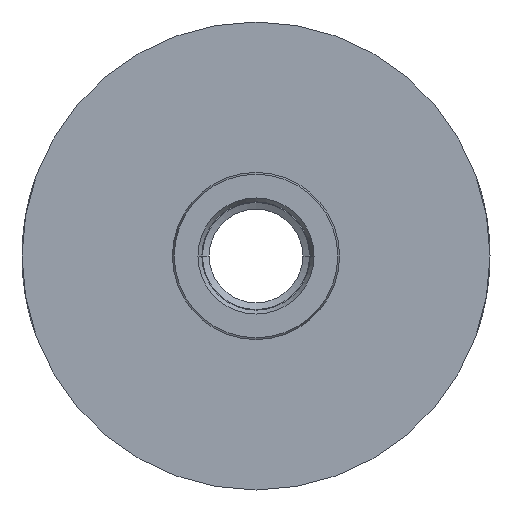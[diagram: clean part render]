
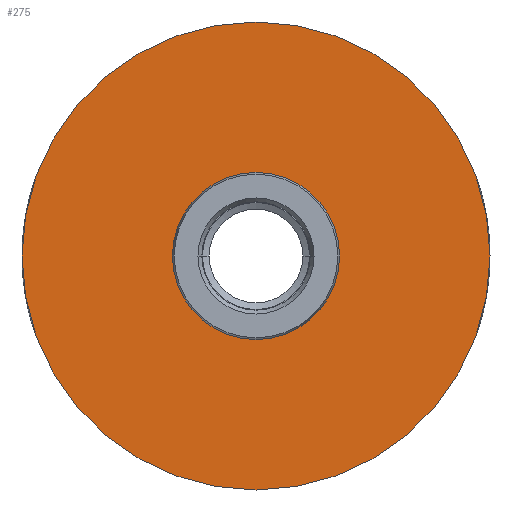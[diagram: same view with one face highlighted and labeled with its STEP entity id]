
A CAD part, front view. The second image highlights one B-rep face of the part: STEP entity #275.
In plain terms, the highlighted planar face has unit normal (0, -1, 0).
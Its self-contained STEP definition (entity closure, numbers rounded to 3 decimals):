
#40 = AXIS2_PLACEMENT_3D ( 'NONE', #1910, #1880, #1706 ) ;
#99 = CARTESIAN_POINT ( 'NONE',  ( 0., 0., 12.5 ) ) ;
#100 = CARTESIAN_POINT ( 'NONE',  ( 0., 0., 0. ) ) ;
#135 = CARTESIAN_POINT ( 'NONE',  ( 0., 0., 0. ) ) ;
#173 = DIRECTION ( 'NONE',  ( 0., 1., 0. ) ) ;
#175 = CIRCLE ( 'NONE', #2520, 12.5 ) ;
#179 = EDGE_CURVE ( 'NONE', #2342, #1859, #1728, .T. ) ;
#270 = CIRCLE ( 'NONE', #1039, 35. ) ;
#275 = ADVANCED_FACE ( 'NONE', ( #2031, #472 ), #924, .F. ) ;
#300 = DIRECTION ( 'NONE',  ( 0., 0., 1. ) ) ;
#311 = CARTESIAN_POINT ( 'NONE',  ( 0., 0., -35. ) ) ;
#363 = EDGE_LOOP ( 'NONE', ( #2414, #1480 ) ) ;
#390 = CARTESIAN_POINT ( 'NONE',  ( 12.5, 0., 0. ) ) ;
#423 = DIRECTION ( 'NONE',  ( 0., 1., 0. ) ) ;
#472 = FACE_BOUND ( 'NONE', #363, .T. ) ;
#498 = ORIENTED_EDGE ( 'NONE', *, *, #179, .F. ) ;
#517 = DIRECTION ( 'NONE',  ( 0., 0., 1. ) ) ;
#539 = DIRECTION ( 'NONE',  ( 0., 1., 0. ) ) ;
#651 = VERTEX_POINT ( 'NONE', #1772 ) ;
#906 = VERTEX_POINT ( 'NONE', #99 ) ;
#924 = PLANE ( 'NONE',  #1346 ) ;
#974 = CIRCLE ( 'NONE', #1504, 12.5 ) ;
#1033 = EDGE_CURVE ( 'NONE', #651, #906, #175, .T. ) ;
#1039 = AXIS2_PLACEMENT_3D ( 'NONE', #1717, #539, #1915 ) ;
#1246 = ORIENTED_EDGE ( 'NONE', *, *, #2468, .F. ) ;
#1256 = EDGE_LOOP ( 'NONE', ( #498, #1246 ) ) ;
#1346 = AXIS2_PLACEMENT_3D ( 'NONE', #390, #423, #517 ) ;
#1472 = EDGE_CURVE ( 'NONE', #906, #651, #974, .T. ) ;
#1475 = DIRECTION ( 'NONE',  ( 0., 1., 0. ) ) ;
#1480 = ORIENTED_EDGE ( 'NONE', *, *, #1033, .T. ) ;
#1504 = AXIS2_PLACEMENT_3D ( 'NONE', #100, #1475, #300 ) ;
#1552 = DIRECTION ( 'NONE',  ( 0., 0., 1. ) ) ;
#1706 = DIRECTION ( 'NONE',  ( 0., 0., 1. ) ) ;
#1717 = CARTESIAN_POINT ( 'NONE',  ( 0., 0., 0. ) ) ;
#1728 = CIRCLE ( 'NONE', #40, 35. ) ;
#1772 = CARTESIAN_POINT ( 'NONE',  ( 0., 0., -12.5 ) ) ;
#1859 = VERTEX_POINT ( 'NONE', #311 ) ;
#1880 = DIRECTION ( 'NONE',  ( 0., 1., 0. ) ) ;
#1910 = CARTESIAN_POINT ( 'NONE',  ( 0., 0., 0. ) ) ;
#1915 = DIRECTION ( 'NONE',  ( 0., 0., 1. ) ) ;
#2031 = FACE_OUTER_BOUND ( 'NONE', #1256, .T. ) ;
#2312 = CARTESIAN_POINT ( 'NONE',  ( 0., 0., 35. ) ) ;
#2342 = VERTEX_POINT ( 'NONE', #2312 ) ;
#2414 = ORIENTED_EDGE ( 'NONE', *, *, #1472, .T. ) ;
#2468 = EDGE_CURVE ( 'NONE', #1859, #2342, #270, .T. ) ;
#2520 = AXIS2_PLACEMENT_3D ( 'NONE', #135, #173, #1552 ) ;
